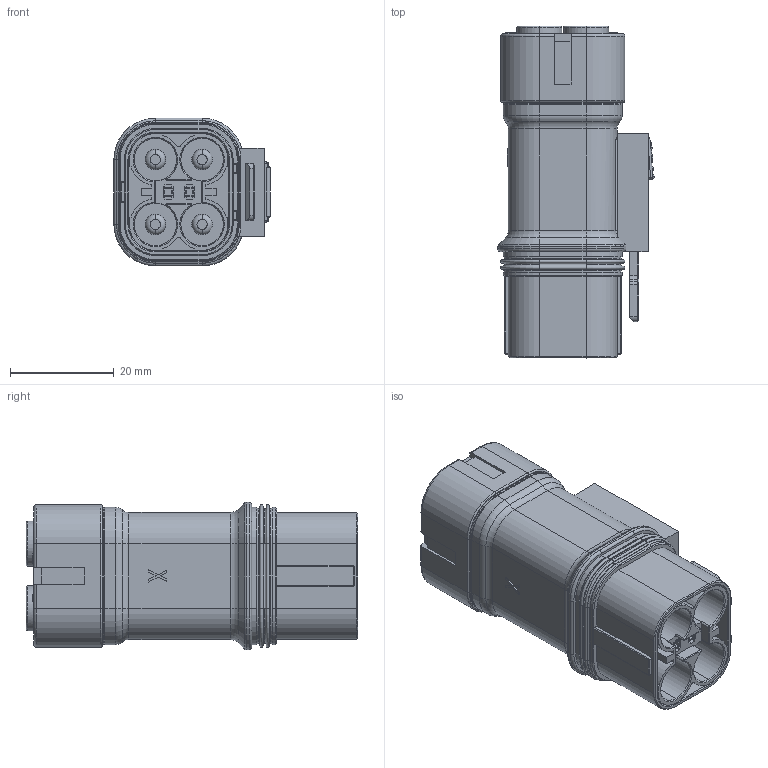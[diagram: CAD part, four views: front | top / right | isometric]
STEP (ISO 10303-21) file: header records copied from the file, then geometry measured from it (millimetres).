
FILE_DESCRIPTION (( 'STEP AP214' ), '1' );
FILE_NAME ('PL184X-41-()-B.STEP', '2020-12-24T02:40:23', ( '' ), ( '' ), 'SwSTEP 2.0', 'SolidWorks 2018', '' );
FILE_SCHEMA (( 'AUTOMOTIVE_DESIGN' ));
Length unit declared in the file: millimetre
Products named in the file (1): PL184X-41-()-B
Bounding box: 30.13 x 64 x 28.5 mm (x, y, z)
Volume: 32915.8 mm3; surface area: 10880.6 mm2
Topology: 1 solids, 5 shells, 732 faces, 1842 edges, 1162 vertices
Faces by surface type: plane 373, cylinder 201, torus 104, cone 38, bspline 16
Entity records: 31604 total; most frequent: CARTESIAN_POINT 6119, DIRECTION 3747, ORIENTED_EDGE 3684, EDGE_CURVE 1842, AXIS2_PLACEMENT_3D 1302, VERTEX_POINT 1162, VECTOR 1143, LINE 1143
